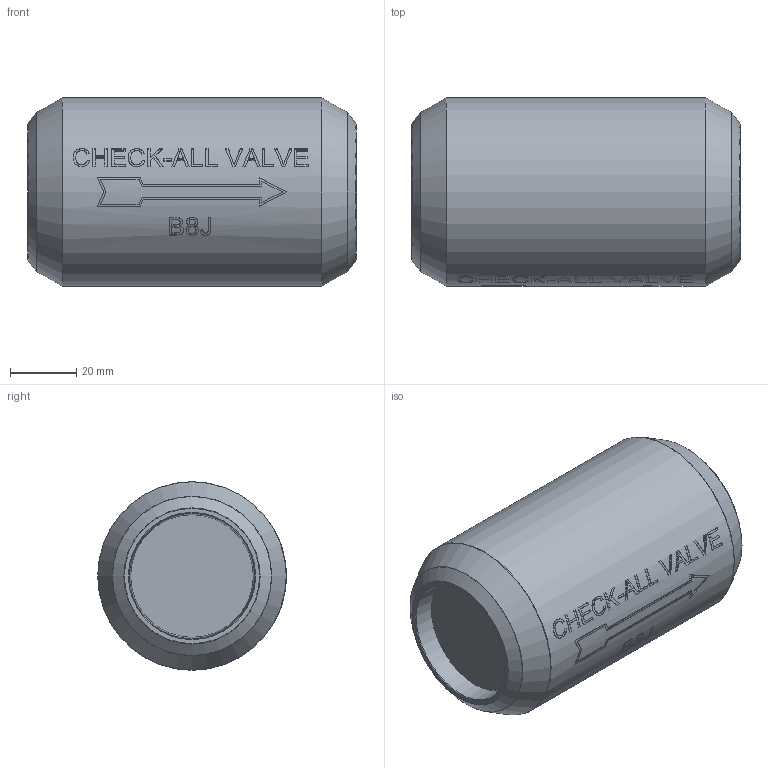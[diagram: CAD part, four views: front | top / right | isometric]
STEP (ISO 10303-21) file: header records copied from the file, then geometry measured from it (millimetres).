
FILE_DESCRIPTION(/* description */ ('Unknown'),/* implementation_level */ '2;1');
FILE_NAME(/* name */ 'B8J',/* time_stamp */ '2017-01-18T10:27:43-06:00',/* author */ ('Unknown'),/* organization */ ('Unknown'),/* preprocessor_version */ 'ST-DEVELOPER v16.7',/* originating_system */ 'DEX',/* authorisation */ $);
FILE_SCHEMA (('AUTOMOTIVE_DESIGN {1 0 10303 214 3 1 1}'));
Length unit declared in the file: millimetre
Products named in the file (1): B8J
Bounding box: 99.49 x 57.15 x 57.15 mm (x, y, z)
Volume: 229647.4 mm3; surface area: 22500.2 mm2
Topology: 1 solids, 1 shells, 197 faces, 497 edges, 329 vertices
Faces by surface type: plane 101, bspline 56, cylinder 27, torus 8, cone 5
Full cylindrical faces by diameter (mm): 38.1 x1, 57.15 x1
Entity records: 12304 total; most frequent: CARTESIAN_POINT 6551, ORIENTED_EDGE 950, DIRECTION 742, EDGE_CURVE 475, VERTEX_POINT 324, LINE 266, VECTOR 266, EDGE_LOOP 241
